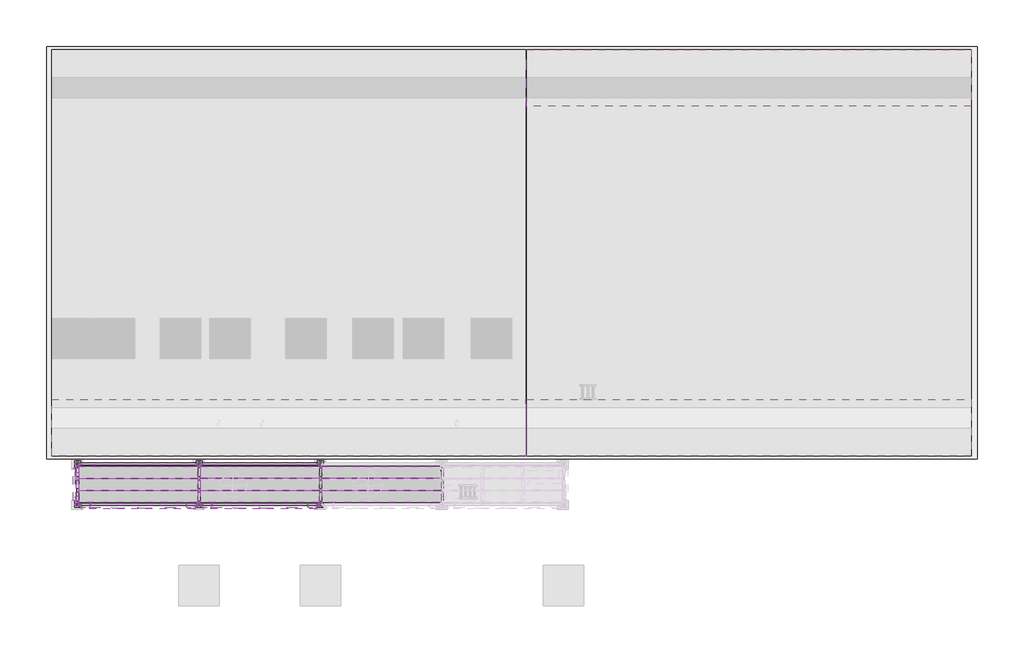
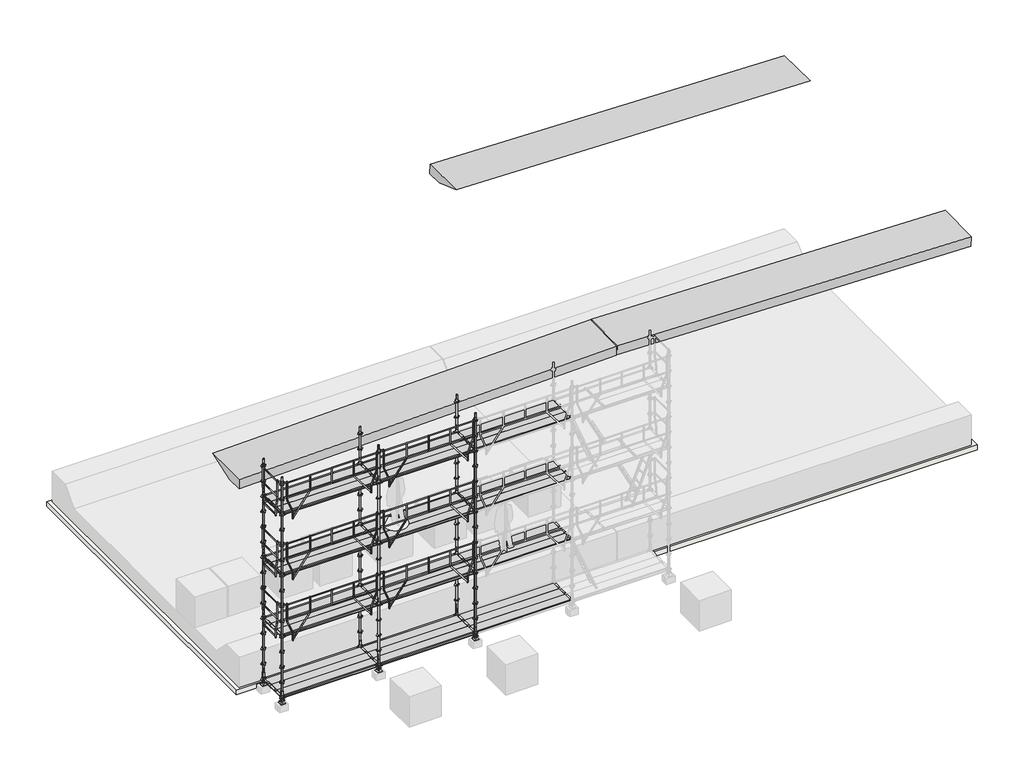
# One storey, part 1 of 2: 109 proxies, 3 beams, 1 slab.
"""IFC4 building model written with IfcOpenShell, lengths in millimetres."""

from ifc_helpers import new_model, si_unit, frame, origin, place, context, project, spatial, polyline, outline, extrude, transform, mapped, element, save
from components import specialty_equipment_0b5c82ff, specialty_equipment_8377ca54, specialty_equipment_3c3e35c8, ap100_b654b57a, ap200_66a3c585, l100_80f0c97a, l300_ff75a488, p300030_d1f45bb2, vp_4bdc5f6d

model = new_model("IFC4")

# Units and contexts
model_context = context("Model", 3, world=origin())
ifc_project = project(units=[si_unit("LENGTHUNIT", "METRE", prefix="MILLI")], contexts=[model_context])

# Site, building, storey
site = spatial("IfcSite", under=ifc_project)
building = spatial("IfcBuilding", under=site)
storey = spatial("IfcBuildingStorey", under=building, Name="Niveau bas traverse inférieure", Elevation=0.0)

# Beams
placement = place(None, origin())
element("IfcBeam", 1, ObjectType="Gousset supérieur : 300 x 600 mm", at=placement, inside=storey, context=model_context, shape_type="SweptSolid", body=[
    extrude(outline(polyline([(0.0, 0.0), (23.0000001, -1400.0), (-299.9999999, -500.0), (-299.9999999, 0.0), (0.0, 0.0)])), frame((-11712.6042066, -4499.9999928, 6816.6944022), z_axis=(0.9996937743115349, 0.0, 0.024745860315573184), x_axis=(-0.024745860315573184, 0.0, 0.9996937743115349)), (0.0, 0.0, 1.0), 11710.0),
])
element("IfcBeam", 2, ObjectType="Gousset supérieur 10.99m : 300 x 600 mm", at=placement, inside=storey, context=model_context, shape_type="SweptSolid", body=[
    extrude(outline(polyline([(0.0, 0.0), (300.0, 0.0), (300.0, -500.0), (-23.0, -1400.0), (0.0, 0.0)])), frame((11006.1950131, -4499.9999935, 6837.40725), z_axis=(-0.9996847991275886, 0.0, 0.025105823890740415), x_axis=(-0.025105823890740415, 0.0, -0.9996847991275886)), (0.0, 0.0, 1.0), 10990.0),
])
element("IfcBeam", 3, ObjectType="Gousset supérieur 10.99m : 300 x 600 mm", at=placement, inside=storey, context=model_context, shape_type="SweptSolid", body=[
    extrude(outline(polyline([(0.0, 0.0), (-23.0, 1400.0), (300.0, 500.0), (300.0, 0.0), (0.0, 0.0)])), frame((11006.2095939, 5550.0000072, 6687.4054358), z_axis=(-0.9996870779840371, 0.0, 0.02501491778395), x_axis=(-0.02501491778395, 0.0, -0.9996870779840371)), (0.0, 0.0, 1.0), 10990.0),
])

# Proxies
specialty_equipment_shape = specialty_equipment_0b5c82ff(model_context)
element("IfcBuildingElementProxy", 4, Name="MILLS_ACRAM_EMBASE : Embase", ObjectType="MILLS_ACRAM_EMBASE : Embase", at=placement, inside=storey, context=model_context, shape_type="MappedRepresentation", body=[
    mapped(specialty_equipment_shape, transform((-7991.5690641, -5699.9999928, 185.0), x_axis=(1.0, 0.0, 0.0), y_axis=(0.0, 1.0, 0.0), z_axis=(0.0, 0.0, 1.0))),
])
element("IfcBuildingElementProxy", 5, Name="MILLS_ACRAM_EMBASE : Embase", ObjectType="MILLS_ACRAM_EMBASE : Embase", at=placement, inside=storey, context=model_context, shape_type="MappedRepresentation", body=[
    mapped(specialty_equipment_shape, transform((-7991.5690641, -4699.9999928, 185.0), x_axis=(1.0, 0.0, 0.0), y_axis=(0.0, 1.0, 0.0), z_axis=(0.0, 0.0, 1.0))),
])
element("IfcBuildingElementProxy", 6, Name="MILLS_ACRAM_EMBASE : Embase", ObjectType="MILLS_ACRAM_EMBASE : Embase", at=placement, inside=storey, context=model_context, shape_type="MappedRepresentation", body=[
    mapped(specialty_equipment_shape, transform((-4991.5690641, -4699.9999928, 185.0), x_axis=(1.0, 0.0, 0.0), y_axis=(0.0, 1.0, 0.0), z_axis=(0.0, 0.0, 1.0))),
])
element("IfcBuildingElementProxy", 7, Name="MILLS_ACRAM_EMBASE : Embase", ObjectType="MILLS_ACRAM_EMBASE : Embase", at=placement, inside=storey, context=model_context, shape_type="MappedRepresentation", body=[
    mapped(specialty_equipment_shape, transform((-4991.5690641, -5699.9999928, 185.0), x_axis=(1.0, 0.0, 0.0), y_axis=(0.0, 1.0, 0.0), z_axis=(0.0, 0.0, 1.0))),
])
element("IfcBuildingElementProxy", 8, Name="MILLS_ACRAM_EMBASE : Embase", ObjectType="MILLS_ACRAM_EMBASE : Embase", at=placement, inside=storey, context=model_context, shape_type="MappedRepresentation", body=[
    mapped(specialty_equipment_shape, transform((-10991.554851, -5699.9999928, 185.0), x_axis=(1.0, 0.0, 0.0), y_axis=(0.0, 1.0, 0.0), z_axis=(0.0, 0.0, 1.0))),
])
element("IfcBuildingElementProxy", 9, Name="MILLS_ACRAM_EMBASE : Embase", ObjectType="MILLS_ACRAM_EMBASE : Embase", at=placement, inside=storey, context=model_context, shape_type="MappedRepresentation", body=[
    mapped(specialty_equipment_shape, transform((-10991.554851, -4699.9999928, 185.0), x_axis=(1.0, 0.0, 0.0), y_axis=(0.0, 1.0, 0.0), z_axis=(0.0, 0.0, 1.0))),
])
specialty_equipment_2_shape = specialty_equipment_8377ca54(model_context)
element("IfcBuildingElementProxy", 10, Name="MILLS_TOEC_GARDE_CORPS_MDS : GCMDS300EE", ObjectType="MILLS_TOEC_GARDE_CORPS_MDS : GCMDS300EE", at=placement, inside=storey, context=model_context, shape_type="MappedRepresentation", body=[
    mapped(specialty_equipment_2_shape, transform((-4865.8266952, -5688.8999928, 3175.0), x_axis=(1.0, 0.0, 0.0), y_axis=(0.0, 1.0, 0.0), z_axis=(0.0, 0.0, 1.0))),
])
element("IfcBuildingElementProxy", 11, Name="MILLS_TOEC_GARDE_CORPS_MDS : GCMDS300EE", ObjectType="MILLS_TOEC_GARDE_CORPS_MDS : GCMDS300EE", at=placement, inside=storey, context=model_context, shape_type="MappedRepresentation", body=[
    mapped(specialty_equipment_2_shape, transform((-7865.8266952, -5688.8999928, 3175.0), x_axis=(1.0, 0.0, 0.0), y_axis=(0.0, 1.0, 0.0), z_axis=(0.0, 0.0, 1.0))),
])
element("IfcBuildingElementProxy", 12, Name="MILLS_TOEC_GARDE_CORPS_MDS : GCMDS300EE", ObjectType="MILLS_TOEC_GARDE_CORPS_MDS : GCMDS300EE", at=placement, inside=storey, context=model_context, shape_type="MappedRepresentation", body=[
    mapped(specialty_equipment_2_shape, transform((-4865.8266952, -5688.8999928, 5175.0), x_axis=(1.0, 0.0, 0.0), y_axis=(0.0, 1.0, 0.0), z_axis=(0.0, 0.0, 1.0))),
])
element("IfcBuildingElementProxy", 13, Name="MILLS_TOEC_GARDE_CORPS_MDS : GCMDS300EE", ObjectType="MILLS_TOEC_GARDE_CORPS_MDS : GCMDS300EE", at=placement, inside=storey, context=model_context, shape_type="MappedRepresentation", body=[
    mapped(specialty_equipment_2_shape, transform((-7865.8124821, -5688.8999928, 5175.0), x_axis=(1.0, 0.0, 0.0), y_axis=(0.0, 1.0, 0.0), z_axis=(0.0, 0.0, 1.0))),
])
element("IfcBuildingElementProxy", 14, Name="MILLS_TOEC_GARDE_CORPS_MDS : GCMDS300EE", ObjectType="MILLS_TOEC_GARDE_CORPS_MDS : GCMDS300EE", at=placement, inside=storey, context=model_context, shape_type="MappedRepresentation", body=[
    mapped(specialty_equipment_2_shape, transform((-4865.8409084, -5688.8999928, 7175.0342697), x_axis=(1.0, 0.0, 0.0), y_axis=(0.0, 1.0, 0.0), z_axis=(0.0, 0.0, 1.0))),
])
element("IfcBuildingElementProxy", 15, Name="MILLS_TOEC_GARDE_CORPS_MDS : GCMDS300EE", ObjectType="MILLS_TOEC_GARDE_CORPS_MDS : GCMDS300EE", at=placement, inside=storey, context=model_context, shape_type="MappedRepresentation", body=[
    mapped(specialty_equipment_2_shape, transform((-7865.8266952, -5688.8999928, 7175.0), x_axis=(1.0, 0.0, 0.0), y_axis=(0.0, 1.0, 0.0), z_axis=(0.0, 0.0, 1.0))),
])
specialty_equipment_3_shape = specialty_equipment_3c3e35c8(model_context)
element("IfcBuildingElementProxy", 16, Name="MILLS_TOEC_GARDE_CORPS_MDS : GCMDS100EE", ObjectType="MILLS_TOEC_GARDE_CORPS_MDS : GCMDS100EE", at=placement, inside=storey, context=model_context, shape_type="MappedRepresentation", body=[
    mapped(specialty_equipment_3_shape, transform((-11059.7475353, -7905.0208329, 3175.0), x_axis=(0.0, -1.0, 0.0), y_axis=(1.0, 0.0, 0.0), z_axis=(0.0, 0.0, 1.0))),
])
element("IfcBuildingElementProxy", 17, Name="MILLS_TOEC_GARDE_CORPS_MDS : GCMDS100EE", ObjectType="MILLS_TOEC_GARDE_CORPS_MDS : GCMDS100EE", at=placement, inside=storey, context=model_context, shape_type="MappedRepresentation", body=[
    mapped(specialty_equipment_3_shape, transform((-11059.7475353, -7905.0208329, 5175.0), x_axis=(0.0, -1.0, 0.0), y_axis=(1.0, 0.0, 0.0), z_axis=(0.0, 0.0, 1.0))),
])
element("IfcBuildingElementProxy", 18, Name="MILLS_TOEC_GARDE_CORPS_MDS : GCMDS100EE", ObjectType="MILLS_TOEC_GARDE_CORPS_MDS : GCMDS100EE", at=placement, inside=storey, context=model_context, shape_type="MappedRepresentation", body=[
    mapped(specialty_equipment_3_shape, transform((-11059.7475353, -7905.0208329, 7175.0), x_axis=(0.0, -1.0, 0.0), y_axis=(1.0, 0.0, 0.0), z_axis=(0.0, 0.0, 1.0))),
])
ap100_shape = ap100_b654b57a(model_context)
element("IfcBuildingElementProxy", 19, Name="MILLS_ACRAM_POTEAUX  : ap100", ObjectType="MILLS_ACRAM_POTEAUX  : ap100", at=placement, inside=storey, context=model_context, shape_type="MappedRepresentation", body=[
    mapped(ap100_shape, transform((-7991.5832772, -5699.9999928, 6185.0), x_axis=(1.0, 0.0, 0.0), y_axis=(0.0, 1.0, 0.0), z_axis=(0.0, 0.0, 1.0))),
])
element("IfcBuildingElementProxy", 20, Name="MILLS_ACRAM_POTEAUX  : ap100", ObjectType="MILLS_ACRAM_POTEAUX  : ap100", at=placement, inside=storey, context=model_context, shape_type="MappedRepresentation", body=[
    mapped(ap100_shape, transform((-7991.5832772, -4699.9999928, 6185.0), x_axis=(1.0, 0.0, 0.0), y_axis=(0.0, 1.0, 0.0), z_axis=(0.0, 0.0, 1.0))),
])
element("IfcBuildingElementProxy", 21, Name="MILLS_ACRAM_POTEAUX  : ap100", ObjectType="MILLS_ACRAM_POTEAUX  : ap100", at=placement, inside=storey, context=model_context, shape_type="MappedRepresentation", body=[
    mapped(ap100_shape, transform((-10991.5690641, -4699.9999928, 6185.0), x_axis=(1.0, 0.0, 0.0), y_axis=(0.0, 1.0, 0.0), z_axis=(0.0, 0.0, 1.0))),
])
element("IfcBuildingElementProxy", 22, Name="MILLS_ACRAM_POTEAUX  : ap100", ObjectType="MILLS_ACRAM_POTEAUX  : ap100", at=placement, inside=storey, context=model_context, shape_type="MappedRepresentation", body=[
    mapped(ap100_shape, transform((-10991.5690641, -5699.9999928, 6185.0), x_axis=(1.0, 0.0, 0.0), y_axis=(0.0, 1.0, 0.0), z_axis=(0.0, 0.0, 1.0))),
])
element("IfcBuildingElementProxy", 23, Name="MILLS_ACRAM_POTEAUX  : ap100", ObjectType="MILLS_ACRAM_POTEAUX  : ap100", at=placement, inside=storey, context=model_context, shape_type="MappedRepresentation", body=[
    mapped(ap100_shape, transform((-4991.5690641, -5699.9999928, 6185.0), x_axis=(1.0, 0.0, 0.0), y_axis=(0.0, 1.0, 0.0), z_axis=(0.0, 0.0, 1.0))),
])
element("IfcBuildingElementProxy", 24, Name="MILLS_ACRAM_POTEAUX  : ap100", ObjectType="MILLS_ACRAM_POTEAUX  : ap100", at=placement, inside=storey, context=model_context, shape_type="MappedRepresentation", body=[
    mapped(ap100_shape, transform((-4991.5690641, -4699.9999928, 6185.0), x_axis=(1.0, 0.0, 0.0), y_axis=(0.0, 1.0, 0.0), z_axis=(0.0, 0.0, 1.0))),
])
ap200_shape = ap200_66a3c585(model_context)
element("IfcBuildingElementProxy", 25, Name="MILLS_ACRAM_POTEAUX  : ap200", ObjectType="MILLS_ACRAM_POTEAUX  : ap200", at=placement, inside=storey, context=model_context, shape_type="MappedRepresentation", body=[
    mapped(ap200_shape, transform((-4991.5832772, -5699.9999928, 185.0), x_axis=(1.0, 0.0, 0.0), y_axis=(0.0, 1.0, 0.0), z_axis=(0.0, 0.0, 1.0))),
])
element("IfcBuildingElementProxy", 26, Name="MILLS_ACRAM_POTEAUX  : ap200", ObjectType="MILLS_ACRAM_POTEAUX  : ap200", at=placement, inside=storey, context=model_context, shape_type="MappedRepresentation", body=[
    mapped(ap200_shape, transform((-4991.5832772, -4699.9999928, 185.0), x_axis=(1.0, 0.0, 0.0), y_axis=(0.0, 1.0, 0.0), z_axis=(0.0, 0.0, 1.0))),
])
element("IfcBuildingElementProxy", 27, Name="MILLS_ACRAM_POTEAUX  : ap200", ObjectType="MILLS_ACRAM_POTEAUX  : ap200", at=placement, inside=storey, context=model_context, shape_type="MappedRepresentation", body=[
    mapped(ap200_shape, transform((-7991.5690641, -4699.9999928, 185.0), x_axis=(1.0, 0.0, 0.0), y_axis=(0.0, 1.0, 0.0), z_axis=(0.0, 0.0, 1.0))),
])
element("IfcBuildingElementProxy", 28, Name="MILLS_ACRAM_POTEAUX  : ap200", ObjectType="MILLS_ACRAM_POTEAUX  : ap200", at=placement, inside=storey, context=model_context, shape_type="MappedRepresentation", body=[
    mapped(ap200_shape, transform((-7991.5690641, -5699.9999928, 185.0), x_axis=(1.0, 0.0, 0.0), y_axis=(0.0, 1.0, 0.0), z_axis=(0.0, 0.0, 1.0))),
])
element("IfcBuildingElementProxy", 29, Name="MILLS_ACRAM_POTEAUX  : ap200", ObjectType="MILLS_ACRAM_POTEAUX  : ap200", at=placement, inside=storey, context=model_context, shape_type="MappedRepresentation", body=[
    mapped(ap200_shape, transform((-10991.5690641, -5699.9999928, 185.0), x_axis=(1.0, 0.0, 0.0), y_axis=(0.0, 1.0, 0.0), z_axis=(0.0, 0.0, 1.0))),
])
element("IfcBuildingElementProxy", 30, Name="MILLS_ACRAM_POTEAUX  : ap200", ObjectType="MILLS_ACRAM_POTEAUX  : ap200", at=placement, inside=storey, context=model_context, shape_type="MappedRepresentation", body=[
    mapped(ap200_shape, transform((-10991.5690641, -4699.9999928, 185.0), x_axis=(1.0, 0.0, 0.0), y_axis=(0.0, 1.0, 0.0), z_axis=(0.0, 0.0, 1.0))),
])
element("IfcBuildingElementProxy", 31, Name="MILLS_ACRAM_POTEAUX  : ap200", ObjectType="MILLS_ACRAM_POTEAUX  : ap200", at=placement, inside=storey, context=model_context, shape_type="MappedRepresentation", body=[
    mapped(ap200_shape, transform((-7991.5690641, -5699.9999928, 2185.0), x_axis=(1.0, 0.0, 0.0), y_axis=(0.0, 1.0, 0.0), z_axis=(0.0, 0.0, 1.0))),
])
element("IfcBuildingElementProxy", 32, Name="MILLS_ACRAM_POTEAUX  : ap200", ObjectType="MILLS_ACRAM_POTEAUX  : ap200", at=placement, inside=storey, context=model_context, shape_type="MappedRepresentation", body=[
    mapped(ap200_shape, transform((-7991.5690641, -4699.9999928, 2185.0), x_axis=(1.0, 0.0, 0.0), y_axis=(0.0, 1.0, 0.0), z_axis=(0.0, 0.0, 1.0))),
])
element("IfcBuildingElementProxy", 33, Name="MILLS_ACRAM_POTEAUX  : ap200", ObjectType="MILLS_ACRAM_POTEAUX  : ap200", at=placement, inside=storey, context=model_context, shape_type="MappedRepresentation", body=[
    mapped(ap200_shape, transform((-10991.5690641, -4699.9999928, 2185.0), x_axis=(1.0, 0.0, 0.0), y_axis=(0.0, 1.0, 0.0), z_axis=(0.0, 0.0, 1.0))),
])
element("IfcBuildingElementProxy", 34, Name="MILLS_ACRAM_POTEAUX  : ap200", ObjectType="MILLS_ACRAM_POTEAUX  : ap200", at=placement, inside=storey, context=model_context, shape_type="MappedRepresentation", body=[
    mapped(ap200_shape, transform((-10991.5690641, -5699.9999928, 2185.0), x_axis=(1.0, 0.0, 0.0), y_axis=(0.0, 1.0, 0.0), z_axis=(0.0, 0.0, 1.0))),
])
element("IfcBuildingElementProxy", 35, Name="MILLS_ACRAM_POTEAUX  : ap200", ObjectType="MILLS_ACRAM_POTEAUX  : ap200", at=placement, inside=storey, context=model_context, shape_type="MappedRepresentation", body=[
    mapped(ap200_shape, transform((-4991.5690641, -4699.9999928, 2185.0), x_axis=(1.0, 0.0, 0.0), y_axis=(0.0, 1.0, 0.0), z_axis=(0.0, 0.0, 1.0))),
])
element("IfcBuildingElementProxy", 36, Name="MILLS_ACRAM_POTEAUX  : ap200", ObjectType="MILLS_ACRAM_POTEAUX  : ap200", at=placement, inside=storey, context=model_context, shape_type="MappedRepresentation", body=[
    mapped(ap200_shape, transform((-4991.5690641, -5699.9999928, 2185.0), x_axis=(1.0, 0.0, 0.0), y_axis=(0.0, 1.0, 0.0), z_axis=(0.0, 0.0, 1.0))),
])
element("IfcBuildingElementProxy", 37, Name="MILLS_ACRAM_POTEAUX  : ap200", ObjectType="MILLS_ACRAM_POTEAUX  : ap200", at=placement, inside=storey, context=model_context, shape_type="MappedRepresentation", body=[
    mapped(ap200_shape, transform((-7991.5832772, -5699.9999928, 4185.0), x_axis=(1.0, 0.0, 0.0), y_axis=(0.0, 1.0, 0.0), z_axis=(0.0, 0.0, 1.0))),
])
element("IfcBuildingElementProxy", 38, Name="MILLS_ACRAM_POTEAUX  : ap200", ObjectType="MILLS_ACRAM_POTEAUX  : ap200", at=placement, inside=storey, context=model_context, shape_type="MappedRepresentation", body=[
    mapped(ap200_shape, transform((-7991.5832772, -4699.9999928, 4185.0), x_axis=(1.0, 0.0, 0.0), y_axis=(0.0, 1.0, 0.0), z_axis=(0.0, 0.0, 1.0))),
])
element("IfcBuildingElementProxy", 39, Name="MILLS_ACRAM_POTEAUX  : ap200", ObjectType="MILLS_ACRAM_POTEAUX  : ap200", at=placement, inside=storey, context=model_context, shape_type="MappedRepresentation", body=[
    mapped(ap200_shape, transform((-10991.5690641, -4699.9999928, 4185.0), x_axis=(1.0, 0.0, 0.0), y_axis=(0.0, 1.0, 0.0), z_axis=(0.0, 0.0, 1.0))),
])
element("IfcBuildingElementProxy", 40, Name="MILLS_ACRAM_POTEAUX  : ap200", ObjectType="MILLS_ACRAM_POTEAUX  : ap200", at=placement, inside=storey, context=model_context, shape_type="MappedRepresentation", body=[
    mapped(ap200_shape, transform((-10991.5690641, -5699.9999928, 4185.0), x_axis=(1.0, 0.0, 0.0), y_axis=(0.0, 1.0, 0.0), z_axis=(0.0, 0.0, 1.0))),
])
element("IfcBuildingElementProxy", 41, Name="MILLS_ACRAM_POTEAUX  : ap200", ObjectType="MILLS_ACRAM_POTEAUX  : ap200", at=placement, inside=storey, context=model_context, shape_type="MappedRepresentation", body=[
    mapped(ap200_shape, transform((-4991.5832772, -5699.9999928, 4185.0), x_axis=(1.0, 0.0, 0.0), y_axis=(0.0, 1.0, 0.0), z_axis=(0.0, 0.0, 1.0))),
])
element("IfcBuildingElementProxy", 42, Name="MILLS_ACRAM_POTEAUX  : ap200", ObjectType="MILLS_ACRAM_POTEAUX  : ap200", at=placement, inside=storey, context=model_context, shape_type="MappedRepresentation", body=[
    mapped(ap200_shape, transform((-4991.5832772, -4699.9999928, 4185.0), x_axis=(1.0, 0.0, 0.0), y_axis=(0.0, 1.0, 0.0), z_axis=(0.0, 0.0, 1.0))),
])
l100_shape = l100_80f0c97a(model_context)
element("IfcBuildingElementProxy", 43, Name="MILLS_ACRAM_LISSES : l100", ObjectType="MILLS_ACRAM_LISSES : l100", at=placement, inside=storey, context=model_context, shape_type="MappedRepresentation", body=[
    mapped(l100_shape, transform((-8070.8475353, -4193.4700293, 2185.0), x_axis=(0.0, 1.0, 0.0), y_axis=(-1.0, 0.0, 0.0), z_axis=(0.0, 0.0, 1.0))),
])
element("IfcBuildingElementProxy", 44, Name="MILLS_ACRAM_LISSES : l100", ObjectType="MILLS_ACRAM_LISSES : l100", at=placement, inside=storey, context=model_context, shape_type="MappedRepresentation", body=[
    mapped(l100_shape, transform((-5070.8475353, -4193.4700293, 185.0), x_axis=(0.0, 1.0, 0.0), y_axis=(-1.0, 0.0, 0.0), z_axis=(0.0, 0.0, 1.0))),
])
element("IfcBuildingElementProxy", 45, Name="MILLS_ACRAM_LISSES : l100", ObjectType="MILLS_ACRAM_LISSES : l100", at=placement, inside=storey, context=model_context, shape_type="MappedRepresentation", body=[
    mapped(l100_shape, transform((-11070.8475353, -4193.4700293, 185.0), x_axis=(0.0, 1.0, 0.0), y_axis=(-1.0, 0.0, 0.0), z_axis=(0.0, 0.0, 1.0))),
])
element("IfcBuildingElementProxy", 46, Name="MILLS_ACRAM_LISSES : l100", ObjectType="MILLS_ACRAM_LISSES : l100", at=placement, inside=storey, context=model_context, shape_type="MappedRepresentation", body=[
    mapped(l100_shape, transform((-8070.8617484, -4193.4700293, 185.0), x_axis=(0.0, 1.0, 0.0), y_axis=(-1.0, 0.0, 0.0), z_axis=(0.0, 0.0, 1.0))),
])
element("IfcBuildingElementProxy", 47, Name="MILLS_ACRAM_LISSES : l100", ObjectType="MILLS_ACRAM_LISSES : l100", at=placement, inside=storey, context=model_context, shape_type="MappedRepresentation", body=[
    mapped(l100_shape, transform((-11070.8333222, -4193.4700293, 2185.0), x_axis=(0.0, 1.0, 0.0), y_axis=(-1.0, 0.0, 0.0), z_axis=(0.0, 0.0, 1.0))),
])
element("IfcBuildingElementProxy", 48, Name="MILLS_ACRAM_LISSES : l100", ObjectType="MILLS_ACRAM_LISSES : l100", at=placement, inside=storey, context=model_context, shape_type="MappedRepresentation", body=[
    mapped(l100_shape, transform((-5070.8475353, -4193.4700293, 2185.0), x_axis=(0.0, 1.0, 0.0), y_axis=(-1.0, 0.0, 0.0), z_axis=(0.0, 0.0, 1.0))),
])
element("IfcBuildingElementProxy", 49, Name="MILLS_ACRAM_LISSES : l100", ObjectType="MILLS_ACRAM_LISSES : l100", at=placement, inside=storey, context=model_context, shape_type="MappedRepresentation", body=[
    mapped(l100_shape, transform((-8070.8475353, -4193.4700293, 4185.0), x_axis=(0.0, 1.0, 0.0), y_axis=(-1.0, 0.0, 0.0), z_axis=(0.0, 0.0, 1.0))),
])
element("IfcBuildingElementProxy", 50, Name="MILLS_ACRAM_LISSES : l100", ObjectType="MILLS_ACRAM_LISSES : l100", at=placement, inside=storey, context=model_context, shape_type="MappedRepresentation", body=[
    mapped(l100_shape, transform((-11070.8475353, -4193.4700293, 4185.0), x_axis=(0.0, 1.0, 0.0), y_axis=(-1.0, 0.0, 0.0), z_axis=(0.0, 0.0, 1.0))),
])
element("IfcBuildingElementProxy", 51, Name="MILLS_ACRAM_LISSES : l100", ObjectType="MILLS_ACRAM_LISSES : l100", at=placement, inside=storey, context=model_context, shape_type="MappedRepresentation", body=[
    mapped(l100_shape, transform((-5070.8617484, -4193.4700293, 4185.0), x_axis=(0.0, 1.0, 0.0), y_axis=(-1.0, 0.0, 0.0), z_axis=(0.0, 0.0, 1.0))),
])
element("IfcBuildingElementProxy", 52, Name="MILLS_ACRAM_LISSES : l100", ObjectType="MILLS_ACRAM_LISSES : l100", at=placement, inside=storey, context=model_context, shape_type="MappedRepresentation", body=[
    mapped(l100_shape, transform((-11070.8475353, -4193.4700293, 6185.0), x_axis=(0.0, 1.0, 0.0), y_axis=(-1.0, 0.0, 0.0), z_axis=(0.0, 0.0, 1.0))),
])
element("IfcBuildingElementProxy", 53, Name="MILLS_ACRAM_LISSES : l100", ObjectType="MILLS_ACRAM_LISSES : l100", at=placement, inside=storey, context=model_context, shape_type="MappedRepresentation", body=[
    mapped(l100_shape, transform((-8070.8617484, -4193.4700293, 6185.0), x_axis=(0.0, 1.0, 0.0), y_axis=(-1.0, 0.0, 0.0), z_axis=(0.0, 0.0, 1.0))),
])
element("IfcBuildingElementProxy", 54, Name="MILLS_ACRAM_LISSES : l100", ObjectType="MILLS_ACRAM_LISSES : l100", at=placement, inside=storey, context=model_context, shape_type="MappedRepresentation", body=[
    mapped(l100_shape, transform((-5070.8617484, -4193.4700293, 6185.0), x_axis=(0.0, 1.0, 0.0), y_axis=(-1.0, 0.0, 0.0), z_axis=(0.0, 0.0, 1.0))),
])
l300_shape = l300_ff75a488(model_context)
element("IfcBuildingElementProxy", 55, Name="MILLS_ACRAM_LISSES : l300", ObjectType="MILLS_ACRAM_LISSES : l300", at=placement, inside=storey, context=model_context, shape_type="MappedRepresentation", body=[
    mapped(l300_shape, transform((-6564.3175718, -5699.9999928, 2185.0), x_axis=(1.0, 0.0, 0.0), y_axis=(0.0, 1.0, 0.0), z_axis=(0.0, 0.0, 1.0))),
])
element("IfcBuildingElementProxy", 56, Name="MILLS_ACRAM_LISSES : l300", ObjectType="MILLS_ACRAM_LISSES : l300", at=placement, inside=storey, context=model_context, shape_type="MappedRepresentation", body=[
    mapped(l300_shape, transform((-6564.3175718, -4699.9999928, 185.0), x_axis=(1.0, 0.0, 0.0), y_axis=(0.0, 1.0, 0.0), z_axis=(0.0, 0.0, 1.0))),
])
element("IfcBuildingElementProxy", 57, Name="MILLS_ACRAM_LISSES : l300", ObjectType="MILLS_ACRAM_LISSES : l300", at=placement, inside=storey, context=model_context, shape_type="MappedRepresentation", body=[
    mapped(l300_shape, transform((-9564.3175718, -4699.9999928, 185.0), x_axis=(1.0, 0.0, 0.0), y_axis=(0.0, 1.0, 0.0), z_axis=(0.0, 0.0, 1.0))),
])
element("IfcBuildingElementProxy", 58, Name="MILLS_ACRAM_LISSES : l300", ObjectType="MILLS_ACRAM_LISSES : l300", at=placement, inside=storey, context=model_context, shape_type="MappedRepresentation", body=[
    mapped(l300_shape, transform((-9564.3175718, -5699.9999928, 185.0), x_axis=(1.0, 0.0, 0.0), y_axis=(0.0, 1.0, 0.0), z_axis=(0.0, 0.0, 1.0))),
])
element("IfcBuildingElementProxy", 59, Name="MILLS_ACRAM_LISSES : l300", ObjectType="MILLS_ACRAM_LISSES : l300", at=placement, inside=storey, context=model_context, shape_type="MappedRepresentation", body=[
    mapped(l300_shape, transform((-6564.331785, -5699.9999928, 185.0), x_axis=(1.0, 0.0, 0.0), y_axis=(0.0, 1.0, 0.0), z_axis=(0.0, 0.0, 1.0))),
])
element("IfcBuildingElementProxy", 60, Name="MILLS_ACRAM_LISSES : l300", ObjectType="MILLS_ACRAM_LISSES : l300", at=placement, inside=storey, context=model_context, shape_type="MappedRepresentation", body=[
    mapped(l300_shape, transform((-6564.3175718, -4699.9999928, 2185.0), x_axis=(1.0, 0.0, 0.0), y_axis=(0.0, 1.0, 0.0), z_axis=(0.0, 0.0, 1.0))),
])
element("IfcBuildingElementProxy", 61, Name="MILLS_ACRAM_LISSES : l300", ObjectType="MILLS_ACRAM_LISSES : l300", at=placement, inside=storey, context=model_context, shape_type="MappedRepresentation", body=[
    mapped(l300_shape, transform((-9564.3175718, -4699.9999928, 2185.0), x_axis=(1.0, 0.0, 0.0), y_axis=(0.0, 1.0, 0.0), z_axis=(0.0, 0.0, 1.0))),
])
element("IfcBuildingElementProxy", 62, Name="MILLS_ACRAM_LISSES : l300", ObjectType="MILLS_ACRAM_LISSES : l300", at=placement, inside=storey, context=model_context, shape_type="MappedRepresentation", body=[
    mapped(l300_shape, transform((-9564.3175718, -5699.9999928, 2185.0), x_axis=(1.0, 0.0, 0.0), y_axis=(0.0, 1.0, 0.0), z_axis=(0.0, 0.0, 1.0))),
])
element("IfcBuildingElementProxy", 63, Name="MILLS_ACRAM_LISSES : l300", ObjectType="MILLS_ACRAM_LISSES : l300", at=placement, inside=storey, context=model_context, shape_type="MappedRepresentation", body=[
    mapped(l300_shape, transform((-6564.3175718, -4699.9999928, 4185.0), x_axis=(1.0, 0.0, 0.0), y_axis=(0.0, 1.0, 0.0), z_axis=(0.0, 0.0, 1.0))),
])
element("IfcBuildingElementProxy", 64, Name="MILLS_ACRAM_LISSES : l300", ObjectType="MILLS_ACRAM_LISSES : l300", at=placement, inside=storey, context=model_context, shape_type="MappedRepresentation", body=[
    mapped(l300_shape, transform((-6564.3175718, -5699.9999928, 4185.0), x_axis=(1.0, 0.0, 0.0), y_axis=(0.0, 1.0, 0.0), z_axis=(0.0, 0.0, 1.0))),
])
element("IfcBuildingElementProxy", 65, Name="MILLS_ACRAM_LISSES : l300", ObjectType="MILLS_ACRAM_LISSES : l300", at=placement, inside=storey, context=model_context, shape_type="MappedRepresentation", body=[
    mapped(l300_shape, transform((-9565.0005021, -5699.9999928, 4185.0), x_axis=(1.0, 0.0, 0.0), y_axis=(0.0, 1.0, 0.0), z_axis=(0.0, 0.0, 1.0))),
])
element("IfcBuildingElementProxy", 66, Name="MILLS_ACRAM_LISSES : l300", ObjectType="MILLS_ACRAM_LISSES : l300", at=placement, inside=storey, context=model_context, shape_type="MappedRepresentation", body=[
    mapped(l300_shape, transform((-9565.0005021, -4699.9999928, 4185.0), x_axis=(1.0, 0.0, 0.0), y_axis=(0.0, 1.0, 0.0), z_axis=(0.0, 0.0, 1.0))),
])
element("IfcBuildingElementProxy", 67, Name="MILLS_ACRAM_LISSES : l300", ObjectType="MILLS_ACRAM_LISSES : l300", at=placement, inside=storey, context=model_context, shape_type="MappedRepresentation", body=[
    mapped(l300_shape, transform((-6564.331785, -5699.9999928, 6185.0), x_axis=(1.0, 0.0, 0.0), y_axis=(0.0, 1.0, 0.0), z_axis=(0.0, 0.0, 1.0))),
])
element("IfcBuildingElementProxy", 68, Name="MILLS_ACRAM_LISSES : l300", ObjectType="MILLS_ACRAM_LISSES : l300", at=placement, inside=storey, context=model_context, shape_type="MappedRepresentation", body=[
    mapped(l300_shape, transform((-6564.331785, -4699.9916544, 6185.0), x_axis=(1.0, 0.0, 0.0), y_axis=(0.0, 1.0, 0.0), z_axis=(0.0, 0.0, 1.0))),
])
element("IfcBuildingElementProxy", 69, Name="MILLS_ACRAM_LISSES : l300", ObjectType="MILLS_ACRAM_LISSES : l300", at=placement, inside=storey, context=model_context, shape_type="MappedRepresentation", body=[
    mapped(l300_shape, transform((-9564.331785, -5699.9999928, 6185.0), x_axis=(1.0, 0.0, 0.0), y_axis=(0.0, 1.0, 0.0), z_axis=(0.0, 0.0, 1.0))),
])
element("IfcBuildingElementProxy", 70, Name="MILLS_ACRAM_LISSES : l300", ObjectType="MILLS_ACRAM_LISSES : l300", at=placement, inside=storey, context=model_context, shape_type="MappedRepresentation", body=[
    mapped(l300_shape, transform((-9564.331785, -4700.0850489, 6185.0), x_axis=(1.0, 0.0, 0.0), y_axis=(0.0, 1.0, 0.0), z_axis=(0.0, 0.0, 1.0))),
])
p300030_shape = p300030_d1f45bb2(model_context)
element("IfcBuildingElementProxy", 71, Name="MILLS_ACRAM_PLANCHER_ACIER : p300030", ObjectType="MILLS_ACRAM_PLANCHER_ACIER : p300030", at=placement, inside=storey, context=model_context, shape_type="MappedRepresentation", body=[
    mapped(p300030_shape, transform((-6126.4785877, -6417.2075684, 189.2), x_axis=(1.0, 0.0, 0.0), y_axis=(0.0, 1.0, 0.0), z_axis=(0.0, 0.0, 1.0))),
])
element("IfcBuildingElementProxy", 72, Name="MILLS_ACRAM_PLANCHER_ACIER : p300030", ObjectType="MILLS_ACRAM_PLANCHER_ACIER : p300030", at=placement, inside=storey, context=model_context, shape_type="MappedRepresentation", body=[
    mapped(p300030_shape, transform((-9126.4785877, -6117.2075684, 189.1947681), x_axis=(1.0, 0.0, 0.0), y_axis=(0.0, 1.0, 0.0), z_axis=(0.0, 0.0, 1.0))),
])
element("IfcBuildingElementProxy", 73, Name="MILLS_ACRAM_PLANCHER_ACIER : p300030", ObjectType="MILLS_ACRAM_PLANCHER_ACIER : p300030", at=placement, inside=storey, context=model_context, shape_type="MappedRepresentation", body=[
    mapped(p300030_shape, transform((-6126.4785877, -6117.2075684, 189.2), x_axis=(1.0, 0.0, 0.0), y_axis=(0.0, 1.0, 0.0), z_axis=(0.0, 0.0, 1.0))),
])
element("IfcBuildingElementProxy", 74, Name="MILLS_ACRAM_PLANCHER_ACIER : p300030", ObjectType="MILLS_ACRAM_PLANCHER_ACIER : p300030", at=placement, inside=storey, context=model_context, shape_type="MappedRepresentation", body=[
    mapped(p300030_shape, transform((-6126.4785877, -6717.2075684, 189.2), x_axis=(1.0, 0.0, 0.0), y_axis=(0.0, 1.0, 0.0), z_axis=(0.0, 0.0, 1.0))),
])
element("IfcBuildingElementProxy", 75, Name="MILLS_ACRAM_PLANCHER_ACIER : p300030", ObjectType="MILLS_ACRAM_PLANCHER_ACIER : p300030", at=placement, inside=storey, context=model_context, shape_type="MappedRepresentation", body=[
    mapped(p300030_shape, transform((-9126.4785877, -6417.2075684, 189.1947681), x_axis=(1.0, 0.0, 0.0), y_axis=(0.0, 1.0, 0.0), z_axis=(0.0, 0.0, 1.0))),
])
element("IfcBuildingElementProxy", 76, Name="MILLS_ACRAM_PLANCHER_ACIER : p300030", ObjectType="MILLS_ACRAM_PLANCHER_ACIER : p300030", at=placement, inside=storey, context=model_context, shape_type="MappedRepresentation", body=[
    mapped(p300030_shape, transform((-9126.4785877, -6717.2075684, 189.1947681), x_axis=(1.0, 0.0, 0.0), y_axis=(0.0, 1.0, 0.0), z_axis=(0.0, 0.0, 1.0))),
])
element("IfcBuildingElementProxy", 77, Name="MILLS_ACRAM_PLANCHER_ACIER : p300030", ObjectType="MILLS_ACRAM_PLANCHER_ACIER : p300030", at=placement, inside=storey, context=model_context, shape_type="MappedRepresentation", body=[
    mapped(p300030_shape, transform((-3126.4785877, -6417.2075684, 189.2), x_axis=(1.0, 0.0, 0.0), y_axis=(0.0, 1.0, 0.0), z_axis=(0.0, 0.0, 1.0))),
])
element("IfcBuildingElementProxy", 78, Name="MILLS_ACRAM_PLANCHER_ACIER : p300030", ObjectType="MILLS_ACRAM_PLANCHER_ACIER : p300030", at=placement, inside=storey, context=model_context, shape_type="MappedRepresentation", body=[
    mapped(p300030_shape, transform((-3126.4785877, -6117.2075684, 189.2), x_axis=(1.0, 0.0, 0.0), y_axis=(0.0, 1.0, 0.0), z_axis=(0.0, 0.0, 1.0))),
])
element("IfcBuildingElementProxy", 79, Name="MILLS_ACRAM_PLANCHER_ACIER : p300030", ObjectType="MILLS_ACRAM_PLANCHER_ACIER : p300030", at=placement, inside=storey, context=model_context, shape_type="MappedRepresentation", body=[
    mapped(p300030_shape, transform((-3126.4785877, -6717.2075684, 189.2), x_axis=(1.0, 0.0, 0.0), y_axis=(0.0, 1.0, 0.0), z_axis=(0.0, 0.0, 1.0))),
])
element("IfcBuildingElementProxy", 80, Name="MILLS_ACRAM_PLANCHER_ACIER : p300030", ObjectType="MILLS_ACRAM_PLANCHER_ACIER : p300030", at=placement, inside=storey, context=model_context, shape_type="MappedRepresentation", body=[
    mapped(p300030_shape, transform((-6126.4928008, -6417.2075684, 2189.0), x_axis=(1.0, 0.0, 0.0), y_axis=(0.0, 1.0, 0.0), z_axis=(0.0, 0.0, 1.0))),
])
element("IfcBuildingElementProxy", 81, Name="MILLS_ACRAM_PLANCHER_ACIER : p300030", ObjectType="MILLS_ACRAM_PLANCHER_ACIER : p300030", at=placement, inside=storey, context=model_context, shape_type="MappedRepresentation", body=[
    mapped(p300030_shape, transform((-6126.4928008, -6117.2075684, 2189.0), x_axis=(1.0, 0.0, 0.0), y_axis=(0.0, 1.0, 0.0), z_axis=(0.0, 0.0, 1.0))),
])
element("IfcBuildingElementProxy", 82, Name="MILLS_ACRAM_PLANCHER_ACIER : p300030", ObjectType="MILLS_ACRAM_PLANCHER_ACIER : p300030", at=placement, inside=storey, context=model_context, shape_type="MappedRepresentation", body=[
    mapped(p300030_shape, transform((-6126.4928008, -6717.2075684, 2189.0), x_axis=(1.0, 0.0, 0.0), y_axis=(0.0, 1.0, 0.0), z_axis=(0.0, 0.0, 1.0))),
])
element("IfcBuildingElementProxy", 83, Name="MILLS_ACRAM_PLANCHER_ACIER : p300030", ObjectType="MILLS_ACRAM_PLANCHER_ACIER : p300030", at=placement, inside=storey, context=model_context, shape_type="MappedRepresentation", body=[
    mapped(p300030_shape, transform((-3126.4928008, -6417.2075684, 2189.0), x_axis=(1.0, 0.0, 0.0), y_axis=(0.0, 1.0, 0.0), z_axis=(0.0, 0.0, 1.0))),
])
element("IfcBuildingElementProxy", 84, Name="MILLS_ACRAM_PLANCHER_ACIER : p300030", ObjectType="MILLS_ACRAM_PLANCHER_ACIER : p300030", at=placement, inside=storey, context=model_context, shape_type="MappedRepresentation", body=[
    mapped(p300030_shape, transform((-3126.4928008, -6117.2075684, 2189.0), x_axis=(1.0, 0.0, 0.0), y_axis=(0.0, 1.0, 0.0), z_axis=(0.0, 0.0, 1.0))),
])
element("IfcBuildingElementProxy", 85, Name="MILLS_ACRAM_PLANCHER_ACIER : p300030", ObjectType="MILLS_ACRAM_PLANCHER_ACIER : p300030", at=placement, inside=storey, context=model_context, shape_type="MappedRepresentation", body=[
    mapped(p300030_shape, transform((-3126.4928008, -6717.2075684, 2189.0), x_axis=(1.0, 0.0, 0.0), y_axis=(0.0, 1.0, 0.0), z_axis=(0.0, 0.0, 1.0))),
])
element("IfcBuildingElementProxy", 86, Name="MILLS_ACRAM_PLANCHER_ACIER : p300030", ObjectType="MILLS_ACRAM_PLANCHER_ACIER : p300030", at=placement, inside=storey, context=model_context, shape_type="MappedRepresentation", body=[
    mapped(p300030_shape, transform((-9126.4928008, -6417.2075684, 2189.0), x_axis=(1.0, 0.0, 0.0), y_axis=(0.0, 1.0, 0.0), z_axis=(0.0, 0.0, 1.0))),
])
element("IfcBuildingElementProxy", 87, Name="MILLS_ACRAM_PLANCHER_ACIER : p300030", ObjectType="MILLS_ACRAM_PLANCHER_ACIER : p300030", at=placement, inside=storey, context=model_context, shape_type="MappedRepresentation", body=[
    mapped(p300030_shape, transform((-9126.4928008, -6117.2075684, 2189.0), x_axis=(1.0, 0.0, 0.0), y_axis=(0.0, 1.0, 0.0), z_axis=(0.0, 0.0, 1.0))),
])
element("IfcBuildingElementProxy", 88, Name="MILLS_ACRAM_PLANCHER_ACIER : p300030", ObjectType="MILLS_ACRAM_PLANCHER_ACIER : p300030", at=placement, inside=storey, context=model_context, shape_type="MappedRepresentation", body=[
    mapped(p300030_shape, transform((-9126.4928008, -6717.2075684, 2189.0), x_axis=(1.0, 0.0, 0.0), y_axis=(0.0, 1.0, 0.0), z_axis=(0.0, 0.0, 1.0))),
])
element("IfcBuildingElementProxy", 89, Name="MILLS_ACRAM_PLANCHER_ACIER : p300030", ObjectType="MILLS_ACRAM_PLANCHER_ACIER : p300030", at=placement, inside=storey, context=model_context, shape_type="MappedRepresentation", body=[
    mapped(p300030_shape, transform((-9126.4785877, -6717.2075684, 4185.0), x_axis=(1.0, 0.0, 0.0), y_axis=(0.0, 1.0, 0.0), z_axis=(0.0, 0.0, 1.0))),
])
element("IfcBuildingElementProxy", 90, Name="MILLS_ACRAM_PLANCHER_ACIER : p300030", ObjectType="MILLS_ACRAM_PLANCHER_ACIER : p300030", at=placement, inside=storey, context=model_context, shape_type="MappedRepresentation", body=[
    mapped(p300030_shape, transform((-9126.4785877, -6417.2075684, 4185.0), x_axis=(1.0, 0.0, 0.0), y_axis=(0.0, 1.0, 0.0), z_axis=(0.0, 0.0, 1.0))),
])
element("IfcBuildingElementProxy", 91, Name="MILLS_ACRAM_PLANCHER_ACIER : p300030", ObjectType="MILLS_ACRAM_PLANCHER_ACIER : p300030", at=placement, inside=storey, context=model_context, shape_type="MappedRepresentation", body=[
    mapped(p300030_shape, transform((-9126.4785877, -6117.2075684, 4185.0), x_axis=(1.0, 0.0, 0.0), y_axis=(0.0, 1.0, 0.0), z_axis=(0.0, 0.0, 1.0))),
])
element("IfcBuildingElementProxy", 92, Name="MILLS_ACRAM_PLANCHER_ACIER : p300030", ObjectType="MILLS_ACRAM_PLANCHER_ACIER : p300030", at=placement, inside=storey, context=model_context, shape_type="MappedRepresentation", body=[
    mapped(p300030_shape, transform((-6126.4643746, -6717.2075684, 4185.0), x_axis=(1.0, 0.0, 0.0), y_axis=(0.0, 1.0, 0.0), z_axis=(0.0, 0.0, 1.0))),
])
element("IfcBuildingElementProxy", 93, Name="MILLS_ACRAM_PLANCHER_ACIER : p300030", ObjectType="MILLS_ACRAM_PLANCHER_ACIER : p300030", at=placement, inside=storey, context=model_context, shape_type="MappedRepresentation", body=[
    mapped(p300030_shape, transform((-6126.4643746, -6417.2075684, 4185.0), x_axis=(1.0, 0.0, 0.0), y_axis=(0.0, 1.0, 0.0), z_axis=(0.0, 0.0, 1.0))),
])
element("IfcBuildingElementProxy", 94, Name="MILLS_ACRAM_PLANCHER_ACIER : p300030", ObjectType="MILLS_ACRAM_PLANCHER_ACIER : p300030", at=placement, inside=storey, context=model_context, shape_type="MappedRepresentation", body=[
    mapped(p300030_shape, transform((-6126.4643746, -6117.2075684, 4185.0), x_axis=(1.0, 0.0, 0.0), y_axis=(0.0, 1.0, 0.0), z_axis=(0.0, 0.0, 1.0))),
])
element("IfcBuildingElementProxy", 95, Name="MILLS_ACRAM_PLANCHER_ACIER : p300030", ObjectType="MILLS_ACRAM_PLANCHER_ACIER : p300030", at=placement, inside=storey, context=model_context, shape_type="MappedRepresentation", body=[
    mapped(p300030_shape, transform((-3126.4643746, -6717.2075684, 4185.0), x_axis=(1.0, 0.0, 0.0), y_axis=(0.0, 1.0, 0.0), z_axis=(0.0, 0.0, 1.0))),
])
element("IfcBuildingElementProxy", 96, Name="MILLS_ACRAM_PLANCHER_ACIER : p300030", ObjectType="MILLS_ACRAM_PLANCHER_ACIER : p300030", at=placement, inside=storey, context=model_context, shape_type="MappedRepresentation", body=[
    mapped(p300030_shape, transform((-3126.4643746, -6417.2075684, 4185.0), x_axis=(1.0, 0.0, 0.0), y_axis=(0.0, 1.0, 0.0), z_axis=(0.0, 0.0, 1.0))),
])
element("IfcBuildingElementProxy", 97, Name="MILLS_ACRAM_PLANCHER_ACIER : p300030", ObjectType="MILLS_ACRAM_PLANCHER_ACIER : p300030", at=placement, inside=storey, context=model_context, shape_type="MappedRepresentation", body=[
    mapped(p300030_shape, transform((-3126.4643746, -6117.2075684, 4185.0), x_axis=(1.0, 0.0, 0.0), y_axis=(0.0, 1.0, 0.0), z_axis=(0.0, 0.0, 1.0))),
])
element("IfcBuildingElementProxy", 98, Name="MILLS_ACRAM_PLANCHER_ACIER : p300030", ObjectType="MILLS_ACRAM_PLANCHER_ACIER : p300030", at=placement, inside=storey, context=model_context, shape_type="MappedRepresentation", body=[
    mapped(p300030_shape, transform((-6126.4785877, -6417.2075684, 6185.0), x_axis=(1.0, 0.0, 0.0), y_axis=(0.0, 1.0, 0.0), z_axis=(0.0, 0.0, 1.0))),
])
element("IfcBuildingElementProxy", 99, Name="MILLS_ACRAM_PLANCHER_ACIER : p300030", ObjectType="MILLS_ACRAM_PLANCHER_ACIER : p300030", at=placement, inside=storey, context=model_context, shape_type="MappedRepresentation", body=[
    mapped(p300030_shape, transform((-6126.4785877, -6117.2075684, 6185.0), x_axis=(1.0, 0.0, 0.0), y_axis=(0.0, 1.0, 0.0), z_axis=(0.0, 0.0, 1.0))),
])
element("IfcBuildingElementProxy", 100, Name="MILLS_ACRAM_PLANCHER_ACIER : p300030", ObjectType="MILLS_ACRAM_PLANCHER_ACIER : p300030", at=placement, inside=storey, context=model_context, shape_type="MappedRepresentation", body=[
    mapped(p300030_shape, transform((-6126.4785877, -6717.2075684, 6185.0), x_axis=(1.0, 0.0, 0.0), y_axis=(0.0, 1.0, 0.0), z_axis=(0.0, 0.0, 1.0))),
])
element("IfcBuildingElementProxy", 101, Name="MILLS_ACRAM_PLANCHER_ACIER : p300030", ObjectType="MILLS_ACRAM_PLANCHER_ACIER : p300030", at=placement, inside=storey, context=model_context, shape_type="MappedRepresentation", body=[
    mapped(p300030_shape, transform((-9126.4928008, -6417.2075684, 6185.0), x_axis=(1.0, 0.0, 0.0), y_axis=(0.0, 1.0, 0.0), z_axis=(0.0, 0.0, 1.0))),
])
element("IfcBuildingElementProxy", 102, Name="MILLS_ACRAM_PLANCHER_ACIER : p300030", ObjectType="MILLS_ACRAM_PLANCHER_ACIER : p300030", at=placement, inside=storey, context=model_context, shape_type="MappedRepresentation", body=[
    mapped(p300030_shape, transform((-9126.4928008, -6117.2075684, 6185.0), x_axis=(1.0, 0.0, 0.0), y_axis=(0.0, 1.0, 0.0), z_axis=(0.0, 0.0, 1.0))),
])
element("IfcBuildingElementProxy", 103, Name="MILLS_ACRAM_PLANCHER_ACIER : p300030", ObjectType="MILLS_ACRAM_PLANCHER_ACIER : p300030", at=placement, inside=storey, context=model_context, shape_type="MappedRepresentation", body=[
    mapped(p300030_shape, transform((-9126.4928008, -6717.2075684, 6185.0), x_axis=(1.0, 0.0, 0.0), y_axis=(0.0, 1.0, 0.0), z_axis=(0.0, 0.0, 1.0))),
])
element("IfcBuildingElementProxy", 104, Name="MILLS_ACRAM_PLANCHER_ACIER : p300030", ObjectType="MILLS_ACRAM_PLANCHER_ACIER : p300030", at=placement, inside=storey, context=model_context, shape_type="MappedRepresentation", body=[
    mapped(p300030_shape, transform((-3126.4785877, -6417.2075684, 6185.0), x_axis=(1.0, 0.0, 0.0), y_axis=(0.0, 1.0, 0.0), z_axis=(0.0, 0.0, 1.0))),
])
element("IfcBuildingElementProxy", 105, Name="MILLS_ACRAM_PLANCHER_ACIER : p300030", ObjectType="MILLS_ACRAM_PLANCHER_ACIER : p300030", at=placement, inside=storey, context=model_context, shape_type="MappedRepresentation", body=[
    mapped(p300030_shape, transform((-3126.4785877, -6117.2075684, 6185.0), x_axis=(1.0, 0.0, 0.0), y_axis=(0.0, 1.0, 0.0), z_axis=(0.0, 0.0, 1.0))),
])
element("IfcBuildingElementProxy", 106, Name="MILLS_ACRAM_PLANCHER_ACIER : p300030", ObjectType="MILLS_ACRAM_PLANCHER_ACIER : p300030", at=placement, inside=storey, context=model_context, shape_type="MappedRepresentation", body=[
    mapped(p300030_shape, transform((-3126.4785877, -6717.2075684, 6185.0), x_axis=(1.0, 0.0, 0.0), y_axis=(0.0, 1.0, 0.0), z_axis=(0.0, 0.0, 1.0))),
])
vp_shape = vp_4bdc5f6d(model_context)
element("IfcBuildingElementProxy", 107, Name="MILLS_ACRAM_VERIN_DE_PIED : vp", ObjectType="MILLS_ACRAM_VERIN_DE_PIED : vp", at=placement, inside=storey, context=model_context, shape_type="MappedRepresentation", body=[
    mapped(vp_shape, transform((-7645.6752302, -5699.9999928, 0.0), x_axis=(1.0, 0.0, 0.0), y_axis=(0.0, 1.0, 0.0), z_axis=(0.0, 0.0, 1.0))),
])
element("IfcBuildingElementProxy", 108, Name="MILLS_ACRAM_VERIN_DE_PIED : vp", ObjectType="MILLS_ACRAM_VERIN_DE_PIED : vp", at=placement, inside=storey, context=model_context, shape_type="MappedRepresentation", body=[
    mapped(vp_shape, transform((-4645.6752302, -5699.9999928, 0.0), x_axis=(1.0, 0.0, 0.0), y_axis=(0.0, 1.0, 0.0), z_axis=(0.0, 0.0, 1.0))),
])
element("IfcBuildingElementProxy", 109, Name="MILLS_ACRAM_VERIN_DE_PIED : vp", ObjectType="MILLS_ACRAM_VERIN_DE_PIED : vp", at=placement, inside=storey, context=model_context, shape_type="MappedRepresentation", body=[
    mapped(vp_shape, transform((-10645.6752302, -5699.9999928, 0.0), x_axis=(1.0, 0.0, 0.0), y_axis=(0.0, 1.0, 0.0), z_axis=(0.0, 0.0, 1.0))),
])
element("IfcBuildingElementProxy", 110, Name="MILLS_ACRAM_VERIN_DE_PIED : vp", ObjectType="MILLS_ACRAM_VERIN_DE_PIED : vp", at=placement, inside=storey, context=model_context, shape_type="MappedRepresentation", body=[
    mapped(vp_shape, transform((-7645.6752302, -4699.9999928, 0.0), x_axis=(1.0, 0.0, 0.0), y_axis=(0.0, 1.0, 0.0), z_axis=(0.0, 0.0, 1.0))),
])
element("IfcBuildingElementProxy", 111, Name="MILLS_ACRAM_VERIN_DE_PIED : vp", ObjectType="MILLS_ACRAM_VERIN_DE_PIED : vp", at=placement, inside=storey, context=model_context, shape_type="MappedRepresentation", body=[
    mapped(vp_shape, transform((-4645.6752302, -4699.9999928, 0.0), x_axis=(1.0, 0.0, 0.0), y_axis=(0.0, 1.0, 0.0), z_axis=(0.0, 0.0, 1.0))),
])
element("IfcBuildingElementProxy", 112, Name="MILLS_ACRAM_VERIN_DE_PIED : vp", ObjectType="MILLS_ACRAM_VERIN_DE_PIED : vp", at=placement, inside=storey, context=model_context, shape_type="MappedRepresentation", body=[
    mapped(vp_shape, transform((-10645.6752302, -4699.9999928, 0.0), x_axis=(1.0, 0.0, 0.0), y_axis=(0.0, 1.0, 0.0), z_axis=(0.0, 0.0, 1.0))),
])

# Slab
element("IfcSlab", 113, ObjectType="Béton de propreté", at=placement, inside=storey, context=model_context, shape_type="SweptSolid", body=[
    extrude(outline(polyline([(-11840.0, 5625.0000072), (11160.0, 5625.0000072), (11160.0, -4574.9999928), (-11840.0, -4574.9999928), (-11840.0, 5625.0000072)])), frame((0.0, 0.0, -150.0), z_axis=(0.0, 0.0, 1.0), x_axis=(1.0, 0.0, 0.0)), (0.0, 0.0, 1.0), 150.0),
])

save(model, "model.ifc")
